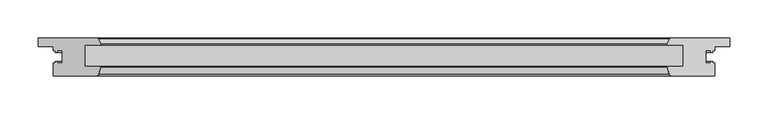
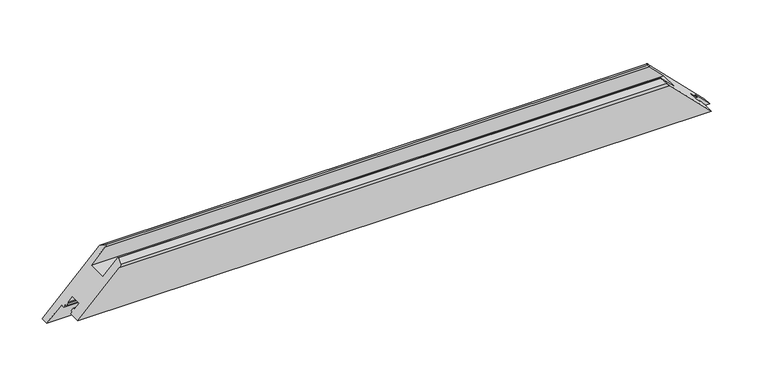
"""IFC4 building model written with IfcOpenShell, lengths in millimetres: proxy geometry, Weiku - Montante - Folha 02.2.01.017 : Weiku - Montante - Folha 02.2.01.017."""

from ifc_helpers import new_model, si_unit, frame, origin, place, context, project, spatial, ellipse_curve, source, transform, mapped, element, save
from ifc_brep_helpers import plane_surface, cylinder_surface, advanced_brep


def generic_models_82fbad55(model_context):
    return source(origin(), model_context, "Body", "AdvancedBrep", [
        advanced_brep(
        [(-434.0, -50.0, 20.0), (434.0, -50.0, 20.0), (376.9997332, -50.0, 77.0002668), (-376.9997332, -50.0, 77.0002668), (-454.0, 0.0, 0.0), (-375.9872264, 0.0, 78.0127736), (375.9872264, 0.0, 78.0127736), (454.0, 0.0, 0.0), (-374.1019557, -47.7764571, 79.8980443), (-371.5170371, -38.1294095, 82.4829629), (-372.0, -37.5, 82.0), (-392.5, -37.5, 61.5), (-392.5, -9.5, 61.5), (-372.7134285, -9.5, 81.2865715), (-371.5512796, -7.617411, 82.4487204), (-375.0932657, -0.5518546, 78.9067343), (-454.0, -11.5, 0.0), (-434.0, -11.5, 20.0), (-434.0, -16.9, 20.0), (-431.8, -16.9, 22.2), (-431.8, -18.9, 22.2), (-429.0, -18.9, 25.0), (-429.0, -16.9, 25.0), (-422.5, -16.9, 31.5), (-422.5, -33.1, 31.5), (-429.0, -33.1, 25.0), (-429.0, -31.1, 25.0), (-431.8, -31.1, 22.2), (-431.8, -33.1, 22.2), (-434.0, -33.1, 20.0), (434.0, -33.1, 20.0), (431.8, -33.1, 22.2), (431.8, -31.1, 22.2), (429.0, -31.1, 25.0), (429.0, -33.1, 25.0), (422.5, -33.1, 31.5), (422.5, -16.9, 31.5), (429.0, -16.9, 25.0), (429.0, -18.9, 25.0), (431.8, -18.9, 22.2), (431.8, -16.9, 22.2), (434.0, -16.9, 20.0), (434.0, -11.5, 20.0), (454.0, -11.5, 0.0), (375.0932657, -0.5518546, 78.9067343), (371.5512796, -7.617411, 82.4487204), (372.7134285, -9.5, 81.2865715), (392.5, -9.5, 61.5), (392.5, -37.5, 61.5), (372.0, -37.5, 82.0), (371.5170371, -38.1294095, 82.4829629), (374.1019557, -47.7764571, 79.8980443)],
        [
            (0, 1),
            (1, 2),
            (2, 3),
            (3, 0),
            (4, 5),
            (5, 6),
            (6, 7),
            (7, 4),
            (3, 8, ellipse_curve(frame((-376.9997332, -47.0, 77.0002668), z_axis=(-0.7071067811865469, 0.0, 0.7071067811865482), x_axis=(-0.707106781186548, 0.0, -0.7071067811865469)), 4.2426407, 3.0)),
            (8, 9),
            (9, 10, ellipse_curve(frame((-372.0, -38.0, 82.0), z_axis=(-0.7071067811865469, 0.0, 0.7071067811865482), x_axis=(-0.707106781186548, 0.0, -0.7071067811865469)), 0.7071068, 0.5)),
            (10, 11),
            (11, 12),
            (12, 13),
            (13, 14, ellipse_curve(frame((-372.7134285, -8.2, 81.2865715), z_axis=(-0.7071067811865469, 0.0, 0.7071067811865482), x_axis=(-0.707106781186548, 0.0, -0.7071067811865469)), 1.8384776, 1.3)),
            (14, 15),
            (15, 5, ellipse_curve(frame((-375.9872264, -1.0, 78.0127736), z_axis=(-0.7071067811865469, 0.0, 0.7071067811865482), x_axis=(-0.707106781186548, 0.0, -0.7071067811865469)), 1.4142136, 1.0)),
            (4, 16),
            (16, 17),
            (17, 18),
            (18, 19),
            (19, 20),
            (20, 21),
            (21, 22),
            (22, 23),
            (23, 24),
            (24, 25),
            (25, 26),
            (26, 27),
            (27, 28),
            (28, 29),
            (29, 0),
            (1, 30),
            (30, 31),
            (31, 32),
            (32, 33),
            (33, 34),
            (34, 35),
            (35, 36),
            (36, 37),
            (37, 38),
            (38, 39),
            (39, 40),
            (40, 41),
            (41, 42),
            (42, 43),
            (43, 7),
            (6, 44, ellipse_curve(frame((375.9872264, -1.0, 78.0127736), z_axis=(0.7071067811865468, 0.0, 0.7071067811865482), x_axis=(-0.7071067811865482, 0.0, 0.7071067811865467)), 1.4142136, 1.0)),
            (44, 45),
            (45, 46, ellipse_curve(frame((372.7134285, -8.2, 81.2865715), z_axis=(0.7071067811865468, 0.0, 0.7071067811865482), x_axis=(-0.7071067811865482, 0.0, 0.7071067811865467)), 1.8384776, 1.3)),
            (46, 47),
            (47, 48),
            (48, 49),
            (49, 50, ellipse_curve(frame((372.0, -38.0, 82.0), z_axis=(0.7071067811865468, 0.0, 0.7071067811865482), x_axis=(-0.7071067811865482, 0.0, 0.7071067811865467)), 0.7071068, 0.5)),
            (50, 51),
            (51, 2, ellipse_curve(frame((376.9997332, -47.0, 77.0002668), z_axis=(0.7071067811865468, 0.0, 0.7071067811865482), x_axis=(-0.7071067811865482, 0.0, 0.7071067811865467)), 4.2426407, 3.0)),
            (15, 44),
            (14, 45),
            (13, 46),
            (12, 47),
            (11, 48),
            (10, 49),
            (9, 50),
            (8, 51),
            (29, 30),
            (28, 31),
            (27, 32),
            (26, 33),
            (25, 34),
            (24, 35),
            (23, 36),
            (22, 37),
            (21, 38),
            (20, 39),
            (19, 40),
            (18, 41),
            (17, 42),
            (16, 43),
        ],
        [
            plane_surface(frame((-454.0, -50.0, 77.0002668), z_axis=(0.0, -1.0, 0.0), x_axis=(1.0, 0.0, 0.0))),
            plane_surface(frame((-454.0, 0.0, 0.0), z_axis=(0.0, 1.0, 0.0), x_axis=(1.0, 0.0, 0.0))),
            plane_surface(frame((-482.2842712, 0.0, -28.2842712), z_axis=(-0.7071067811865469, 0.0, 0.7071067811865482), x_axis=(0.0, -1.0, 0.0))),
            plane_surface(frame((364.0, 0.0, 90.0), z_axis=(0.7071067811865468, 0.0, 0.7071067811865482), x_axis=(0.0, -1.0, 0.0))),
            cylinder_surface(frame((-454.0, -1.0, 78.0127736), z_axis=(-1.0, 0.0, 0.0), x_axis=(0.0, -1.0, 0.0)), 1.0),
            plane_surface(frame((-454.0, -0.5518546, 78.9067343), z_axis=(0.0, 0.4481453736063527, 0.8939606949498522), x_axis=(1.0, 0.0, 0.0))),
            cylinder_surface(frame((-454.0, -8.2, 81.2865715), z_axis=(-1.0, 0.0, 0.0), x_axis=(0.0, -1.0, 0.0)), 1.3),
            plane_surface(frame((-454.0, -9.5, 81.2865715), z_axis=(0.0, -1.0, 0.0), x_axis=(1.0, 0.0, 0.0))),
            plane_surface(frame((-454.0, -9.5, 61.5), z_axis=(0.0, 0.0, 1.0), x_axis=(1.0, 0.0, 0.0))),
            plane_surface(frame((-454.0, -37.5, 61.5), z_axis=(0.0, 1.0, 0.0), x_axis=(1.0, 0.0, 0.0))),
            cylinder_surface(frame((-454.0, -38.0, 82.0), z_axis=(-1.0, 0.0, 0.0), x_axis=(0.0, -1.0, 0.0)), 0.5),
            plane_surface(frame((-454.0, -38.1294095, 82.4829629), z_axis=(0.0, -0.2588190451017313, 0.9659258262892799), x_axis=(1.0, 0.0, 0.0))),
            cylinder_surface(frame((-454.0, -47.0, 77.0002668), z_axis=(-1.0, 0.0, 0.0), x_axis=(0.0, -1.0, 0.0)), 3.0),
            plane_surface(frame((-454.0, -50.0, 20.0), z_axis=(0.0, 0.0, -1.0), x_axis=(1.0, 0.0, 0.0))),
            plane_surface(frame((-454.0, -33.1, 20.0), z_axis=(0.0, 1.0, 0.0), x_axis=(1.0, 0.0, 0.0))),
            plane_surface(frame((-454.0, -33.1, 22.2), z_axis=(0.0, 0.0, -1.0), x_axis=(1.0, 0.0, 0.0))),
            plane_surface(frame((-454.0, -31.1, 22.2), z_axis=(0.0, 1.0, 0.0), x_axis=(1.0, 0.0, 0.0))),
            plane_surface(frame((-454.0, -31.1, 25.0), z_axis=(0.0, 0.0, 1.0), x_axis=(1.0, 0.0, 0.0))),
            plane_surface(frame((-454.0, -33.1, 25.0), z_axis=(0.0, 1.0, 0.0), x_axis=(1.0, 0.0, 0.0))),
            plane_surface(frame((-454.0, -33.1, 31.5), z_axis=(0.0, 0.0, -1.0), x_axis=(1.0, 0.0, 0.0))),
            plane_surface(frame((-454.0, -16.9, 31.5), z_axis=(0.0, -1.0, 0.0), x_axis=(1.0, 0.0, 0.0))),
            plane_surface(frame((-454.0, -16.9, 25.0), z_axis=(0.0, 0.0, 1.0), x_axis=(1.0, 0.0, 0.0))),
            plane_surface(frame((-454.0, -18.9, 25.0), z_axis=(0.0, -1.0, 0.0), x_axis=(1.0, 0.0, 0.0))),
            plane_surface(frame((-454.0, -18.9, 22.2), z_axis=(0.0, 0.0, -1.0), x_axis=(1.0, 0.0, 0.0))),
            plane_surface(frame((-454.0, -16.9, 22.2), z_axis=(0.0, -1.0, 0.0), x_axis=(1.0, 0.0, 0.0))),
            plane_surface(frame((-454.0, -16.9, 20.0), z_axis=(0.0, 0.0, -1.0), x_axis=(1.0, 0.0, 0.0))),
            plane_surface(frame((-454.0, -11.5, 20.0), z_axis=(0.0, -1.0, 0.0), x_axis=(1.0, 0.0, 0.0))),
            plane_surface(frame((-454.0, -11.5, 0.0), z_axis=(0.0, 0.0, -1.0), x_axis=(1.0, 0.0, 0.0))),
        ],
        [
            (0, [[1, 2, 3, 4]]),
            (1, [[5, 6, 7, 8]]),
            (2, [[9, 10, 11, 12, 13, 14, 15, 16, 17, -5, 18, 19, 20, 21, 22, 23, 24, 25, 26, 27, 28, 29, 30, 31, 32, -4]]),
            (3, [[33, 34, 35, 36, 37, 38, 39, 40, 41, 42, 43, 44, 45, 46, 47, -7, 48, 49, 50, 51, 52, 53, 54, 55, 56, -2]]),
            (4, [[57, -48, -6, -17]]),
            (5, [[58, -49, -57, -16]]),
            (6, [[59, -50, -58, -15]]),
            (7, [[60, -51, -59, -14]]),
            (8, [[61, -52, -60, -13]]),
            (9, [[62, -53, -61, -12]]),
            (10, [[63, -54, -62, -11]]),
            (11, [[64, -55, -63, -10]]),
            (12, [[-3, -56, -64, -9]]),
            (13, [[65, -33, -1, -32]]),
            (14, [[66, -34, -65, -31]]),
            (15, [[67, -35, -66, -30]]),
            (16, [[68, -36, -67, -29]]),
            (17, [[69, -37, -68, -28]]),
            (18, [[70, -38, -69, -27]]),
            (19, [[71, -39, -70, -26]]),
            (20, [[72, -40, -71, -25]]),
            (21, [[73, -41, -72, -24]]),
            (22, [[74, -42, -73, -23]]),
            (23, [[75, -43, -74, -22]]),
            (24, [[76, -44, -75, -21]]),
            (25, [[77, -45, -76, -20]]),
            (26, [[-46, -77, -19, 78]]),
            (27, [[-47, -78, -18, -8]]),
        ],
    ),
    ])


if __name__ == "__main__":
    model = new_model("IFC4")
    model_context = context("Model", 3, world=origin())
    ifc_project = project(units=[si_unit("LENGTHUNIT", "METRE", prefix="MILLI")], contexts=[model_context])
    site = spatial("IfcSite", under=ifc_project)
    building = spatial("IfcBuilding", under=site)
    placement = place(None, origin())
    generic_models_shape = generic_models_82fbad55(model_context)
    element("IfcBuildingElementProxy", 1, Name="Weiku - Montante - Folha 02.2.01.017 : Weiku - Montante - Folha 02.2.01.017", ObjectType="Weiku - Montante - Folha 02.2.01.017 : Weiku - Montante - Folha 02.2.01.017", at=placement, inside=building, context=model_context, shape_type="MappedRepresentation", body=[
        mapped(generic_models_shape, transform((0.0, 0.0, 0.0), x_axis=(1.0, 0.0, 0.0), y_axis=(0.0, 1.0, 0.0), z_axis=(0.0, 0.0, 1.0))),
    ])
    save(model, "model.ifc")
